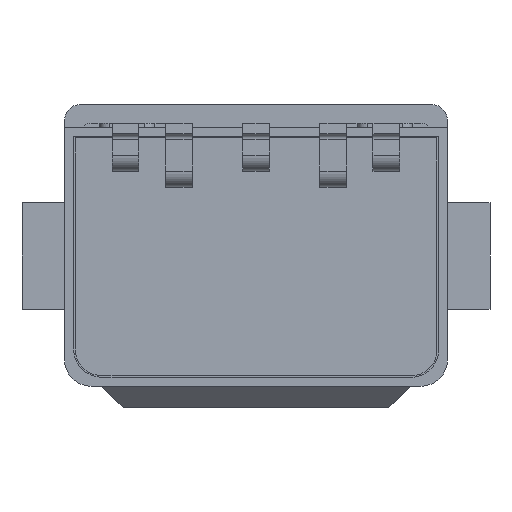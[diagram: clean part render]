
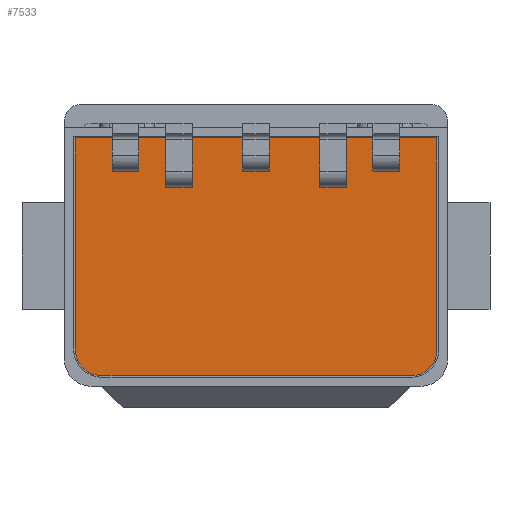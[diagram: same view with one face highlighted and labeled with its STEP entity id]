
A CAD part, front view. The second image highlights one B-rep face of the part: STEP entity #7533.
In plain terms, the highlighted planar face has unit normal (0, -1, 0).
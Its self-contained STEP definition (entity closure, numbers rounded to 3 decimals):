
#1821=DIRECTION('',(-1.,0.,0.));
#1822=VECTOR('',#1821,5.824);
#1823=CARTESIAN_POINT('',(2.928,-12.6,-2.25));
#1824=LINE('',#1823,#1822);
#1825=CARTESIAN_POINT('',(-2.896,-12.6,-1.746));
#1826=DIRECTION('',(0.,-1.,0.));
#1827=DIRECTION('',(-1.,0.,0.));
#1828=AXIS2_PLACEMENT_3D('',#1825,#1826,#1827);
#1830=DIRECTION('',(0.,0.,1.));
#1831=VECTOR('',#1830,3.966);
#1832=CARTESIAN_POINT('',(-3.4,-12.6,-1.746));
#1833=LINE('',#1832,#1831);
#1834=DIRECTION('',(1.,0.,0.));
#1835=VECTOR('',#1834,6.8);
#1836=CARTESIAN_POINT('',(-3.4,-12.6,2.22));
#1837=LINE('',#1836,#1835);
#1838=DIRECTION('',(0.,0.,-1.));
#1839=VECTOR('',#1838,3.998);
#1840=CARTESIAN_POINT('',(3.4,-12.6,2.22));
#1841=LINE('',#1840,#1839);
#1842=CARTESIAN_POINT('',(2.928,-12.6,-1.778));
#1843=DIRECTION('',(0.,-1.,0.));
#1844=DIRECTION('',(0.,0.,-1.));
#1845=AXIS2_PLACEMENT_3D('',#1842,#1843,#1844);
#1873=DIRECTION('',(0.,0.,-1.));
#1874=VECTOR('',#1873,0.2);
#1875=CARTESIAN_POINT('',(-0.25,-12.6,1.795));
#1876=LINE('',#1875,#1874);
#1877=DIRECTION('',(1.,0.,0.));
#1878=VECTOR('',#1877,0.5);
#1879=CARTESIAN_POINT('',(-0.25,-12.6,1.595));
#1880=LINE('',#1879,#1878);
#1881=DIRECTION('',(0.,0.,-1.));
#1882=VECTOR('',#1881,0.2);
#1883=CARTESIAN_POINT('',(0.25,-12.6,1.795));
#1884=LINE('',#1883,#1882);
#1885=DIRECTION('',(1.,0.,0.));
#1886=VECTOR('',#1885,0.5);
#1887=CARTESIAN_POINT('',(-0.25,-12.6,1.795));
#1888=LINE('',#1887,#1886);
#1889=DIRECTION('',(0.,0.,-1.));
#1890=VECTOR('',#1889,0.2);
#1891=CARTESIAN_POINT('',(1.2,-12.6,1.495));
#1892=LINE('',#1891,#1890);
#1893=DIRECTION('',(1.,0.,0.));
#1894=VECTOR('',#1893,0.5);
#1895=CARTESIAN_POINT('',(1.2,-12.6,1.295));
#1896=LINE('',#1895,#1894);
#1897=DIRECTION('',(0.,0.,-1.));
#1898=VECTOR('',#1897,0.2);
#1899=CARTESIAN_POINT('',(1.7,-12.6,1.495));
#1900=LINE('',#1899,#1898);
#1901=DIRECTION('',(1.,0.,0.));
#1902=VECTOR('',#1901,0.5);
#1903=CARTESIAN_POINT('',(1.2,-12.6,1.495));
#1904=LINE('',#1903,#1902);
#1905=DIRECTION('',(0.,0.,-1.));
#1906=VECTOR('',#1905,0.2);
#1907=CARTESIAN_POINT('',(-1.2,-12.6,1.495));
#1908=LINE('',#1907,#1906);
#1909=DIRECTION('',(-1.,0.,0.));
#1910=VECTOR('',#1909,0.5);
#1911=CARTESIAN_POINT('',(-1.2,-12.6,1.495));
#1912=LINE('',#1911,#1910);
#1913=DIRECTION('',(0.,0.,-1.));
#1914=VECTOR('',#1913,0.2);
#1915=CARTESIAN_POINT('',(-1.7,-12.6,1.495));
#1916=LINE('',#1915,#1914);
#1917=DIRECTION('',(-1.,0.,0.));
#1918=VECTOR('',#1917,0.5);
#1919=CARTESIAN_POINT('',(-1.2,-12.6,1.295));
#1920=LINE('',#1919,#1918);
#1921=DIRECTION('',(0.,0.,-1.));
#1922=VECTOR('',#1921,0.2);
#1923=CARTESIAN_POINT('',(2.2,-12.6,1.795));
#1924=LINE('',#1923,#1922);
#1925=DIRECTION('',(1.,0.,0.));
#1926=VECTOR('',#1925,0.5);
#1927=CARTESIAN_POINT('',(2.2,-12.6,1.595));
#1928=LINE('',#1927,#1926);
#1929=DIRECTION('',(0.,0.,-1.));
#1930=VECTOR('',#1929,0.2);
#1931=CARTESIAN_POINT('',(2.7,-12.6,1.795));
#1932=LINE('',#1931,#1930);
#1933=DIRECTION('',(1.,0.,0.));
#1934=VECTOR('',#1933,0.5);
#1935=CARTESIAN_POINT('',(2.2,-12.6,1.795));
#1936=LINE('',#1935,#1934);
#1937=DIRECTION('',(0.,0.,-1.));
#1938=VECTOR('',#1937,0.2);
#1939=CARTESIAN_POINT('',(-2.2,-12.6,1.795));
#1940=LINE('',#1939,#1938);
#1941=DIRECTION('',(-1.,0.,0.));
#1942=VECTOR('',#1941,0.5);
#1943=CARTESIAN_POINT('',(-2.2,-12.6,1.795));
#1944=LINE('',#1943,#1942);
#1945=DIRECTION('',(0.,0.,-1.));
#1946=VECTOR('',#1945,0.2);
#1947=CARTESIAN_POINT('',(-2.7,-12.6,1.795));
#1948=LINE('',#1947,#1946);
#1949=DIRECTION('',(-1.,0.,0.));
#1950=VECTOR('',#1949,0.5);
#1951=CARTESIAN_POINT('',(-2.2,-12.6,1.595));
#1952=LINE('',#1951,#1950);
#4763=CARTESIAN_POINT('',(2.928,-12.6,-2.25));
#4764=CARTESIAN_POINT('',(-2.896,-12.6,-2.25));
#4765=VERTEX_POINT('',#4763);
#4766=VERTEX_POINT('',#4764);
#4767=CARTESIAN_POINT('',(-3.4,-12.6,-1.746));
#4768=VERTEX_POINT('',#4767);
#4769=CARTESIAN_POINT('',(-3.4,-12.6,2.22));
#4770=VERTEX_POINT('',#4769);
#4771=CARTESIAN_POINT('',(3.4,-12.6,2.22));
#4772=VERTEX_POINT('',#4771);
#4773=CARTESIAN_POINT('',(3.4,-12.6,-1.778));
#4774=VERTEX_POINT('',#4773);
#4839=CARTESIAN_POINT('',(-0.25,-12.6,1.795));
#4840=CARTESIAN_POINT('',(-0.25,-12.6,1.595));
#4841=VERTEX_POINT('',#4839);
#4842=VERTEX_POINT('',#4840);
#4843=CARTESIAN_POINT('',(0.25,-12.6,1.795));
#4844=CARTESIAN_POINT('',(0.25,-12.6,1.595));
#4845=VERTEX_POINT('',#4843);
#4846=VERTEX_POINT('',#4844);
#4887=CARTESIAN_POINT('',(1.2,-12.6,1.495));
#4888=CARTESIAN_POINT('',(1.2,-12.6,1.295));
#4889=VERTEX_POINT('',#4887);
#4890=VERTEX_POINT('',#4888);
#4891=CARTESIAN_POINT('',(1.7,-12.6,1.495));
#4892=CARTESIAN_POINT('',(1.7,-12.6,1.295));
#4893=VERTEX_POINT('',#4891);
#4894=VERTEX_POINT('',#4892);
#4935=CARTESIAN_POINT('',(-1.2,-12.6,1.295));
#4936=VERTEX_POINT('',#4935);
#4937=CARTESIAN_POINT('',(-1.2,-12.6,1.495));
#4938=VERTEX_POINT('',#4937);
#4939=CARTESIAN_POINT('',(-1.7,-12.6,1.295));
#4940=VERTEX_POINT('',#4939);
#4941=CARTESIAN_POINT('',(-1.7,-12.6,1.495));
#4942=VERTEX_POINT('',#4941);
#4983=CARTESIAN_POINT('',(2.2,-12.6,1.795));
#4984=CARTESIAN_POINT('',(2.2,-12.6,1.595));
#4985=VERTEX_POINT('',#4983);
#4986=VERTEX_POINT('',#4984);
#4987=CARTESIAN_POINT('',(2.7,-12.6,1.795));
#4988=CARTESIAN_POINT('',(2.7,-12.6,1.595));
#4989=VERTEX_POINT('',#4987);
#4990=VERTEX_POINT('',#4988);
#5031=CARTESIAN_POINT('',(-2.2,-12.6,1.595));
#5032=VERTEX_POINT('',#5031);
#5033=CARTESIAN_POINT('',(-2.2,-12.6,1.795));
#5034=VERTEX_POINT('',#5033);
#5035=CARTESIAN_POINT('',(-2.7,-12.6,1.595));
#5036=VERTEX_POINT('',#5035);
#5037=CARTESIAN_POINT('',(-2.7,-12.6,1.795));
#5038=VERTEX_POINT('',#5037);
#7465=CARTESIAN_POINT('',(0.,-12.6,0.));
#7466=DIRECTION('',(0.,-1.,0.));
#7467=DIRECTION('',(-1.,0.,0.));
#7468=AXIS2_PLACEMENT_3D('',#7465,#7466,#7467);
#7469=PLANE('',#7468);
#7471=ORIENTED_EDGE('',*,*,#7470,.T.);
#7473=ORIENTED_EDGE('',*,*,#7472,.F.);
#7475=ORIENTED_EDGE('',*,*,#7474,.T.);
#7476=ORIENTED_EDGE('',*,*,#6815,.T.);
#7478=ORIENTED_EDGE('',*,*,#7477,.T.);
#7480=ORIENTED_EDGE('',*,*,#7479,.F.);
#7481=EDGE_LOOP('',(#7471,#7473,#7475,#7476,#7478,#7480));
#7482=FACE_OUTER_BOUND('',#7481,.F.);
#7484=ORIENTED_EDGE('',*,*,#7483,.T.);
#7486=ORIENTED_EDGE('',*,*,#7485,.T.);
#7488=ORIENTED_EDGE('',*,*,#7487,.F.);
#7490=ORIENTED_EDGE('',*,*,#7489,.F.);
#7491=EDGE_LOOP('',(#7484,#7486,#7488,#7490));
#7492=FACE_BOUND('',#7491,.F.);
#7494=ORIENTED_EDGE('',*,*,#7493,.T.);
#7496=ORIENTED_EDGE('',*,*,#7495,.T.);
#7498=ORIENTED_EDGE('',*,*,#7497,.F.);
#7500=ORIENTED_EDGE('',*,*,#7499,.F.);
#7501=EDGE_LOOP('',(#7494,#7496,#7498,#7500));
#7502=FACE_BOUND('',#7501,.F.);
#7504=ORIENTED_EDGE('',*,*,#7503,.F.);
#7506=ORIENTED_EDGE('',*,*,#7505,.T.);
#7508=ORIENTED_EDGE('',*,*,#7507,.T.);
#7510=ORIENTED_EDGE('',*,*,#7509,.F.);
#7511=EDGE_LOOP('',(#7504,#7506,#7508,#7510));
#7512=FACE_BOUND('',#7511,.F.);
#7514=ORIENTED_EDGE('',*,*,#7513,.T.);
#7516=ORIENTED_EDGE('',*,*,#7515,.T.);
#7518=ORIENTED_EDGE('',*,*,#7517,.F.);
#7520=ORIENTED_EDGE('',*,*,#7519,.F.);
#7521=EDGE_LOOP('',(#7514,#7516,#7518,#7520));
#7522=FACE_BOUND('',#7521,.F.);
#7524=ORIENTED_EDGE('',*,*,#7523,.F.);
#7526=ORIENTED_EDGE('',*,*,#7525,.T.);
#7528=ORIENTED_EDGE('',*,*,#7527,.T.);
#7530=ORIENTED_EDGE('',*,*,#7529,.F.);
#7531=EDGE_LOOP('',(#7524,#7526,#7528,#7530));
#7532=FACE_BOUND('',#7531,.F.);
#1829=CIRCLE('',#1828,0.504);
#1846=CIRCLE('',#1845,0.472);
#6815=EDGE_CURVE('',#4770,#4772,#1837,.T.);
#7470=EDGE_CURVE('',#4765,#4766,#1824,.T.);
#7472=EDGE_CURVE('',#4768,#4766,#1829,.T.);
#7474=EDGE_CURVE('',#4768,#4770,#1833,.T.);
#7477=EDGE_CURVE('',#4772,#4774,#1841,.T.);
#7479=EDGE_CURVE('',#4765,#4774,#1846,.T.);
#7483=EDGE_CURVE('',#4841,#4842,#1876,.T.);
#7485=EDGE_CURVE('',#4842,#4846,#1880,.T.);
#7487=EDGE_CURVE('',#4845,#4846,#1884,.T.);
#7489=EDGE_CURVE('',#4841,#4845,#1888,.T.);
#7493=EDGE_CURVE('',#4889,#4890,#1892,.T.);
#7495=EDGE_CURVE('',#4890,#4894,#1896,.T.);
#7497=EDGE_CURVE('',#4893,#4894,#1900,.T.);
#7499=EDGE_CURVE('',#4889,#4893,#1904,.T.);
#7503=EDGE_CURVE('',#4938,#4936,#1908,.T.);
#7505=EDGE_CURVE('',#4938,#4942,#1912,.T.);
#7507=EDGE_CURVE('',#4942,#4940,#1916,.T.);
#7509=EDGE_CURVE('',#4936,#4940,#1920,.T.);
#7513=EDGE_CURVE('',#4985,#4986,#1924,.T.);
#7515=EDGE_CURVE('',#4986,#4990,#1928,.T.);
#7517=EDGE_CURVE('',#4989,#4990,#1932,.T.);
#7519=EDGE_CURVE('',#4985,#4989,#1936,.T.);
#7523=EDGE_CURVE('',#5034,#5032,#1940,.T.);
#7525=EDGE_CURVE('',#5034,#5038,#1944,.T.);
#7527=EDGE_CURVE('',#5038,#5036,#1948,.T.);
#7529=EDGE_CURVE('',#5032,#5036,#1952,.T.);
#7533=ADVANCED_FACE('',(#7482,#7492,#7502,#7512,#7522,#7532),#7469,.T.);
